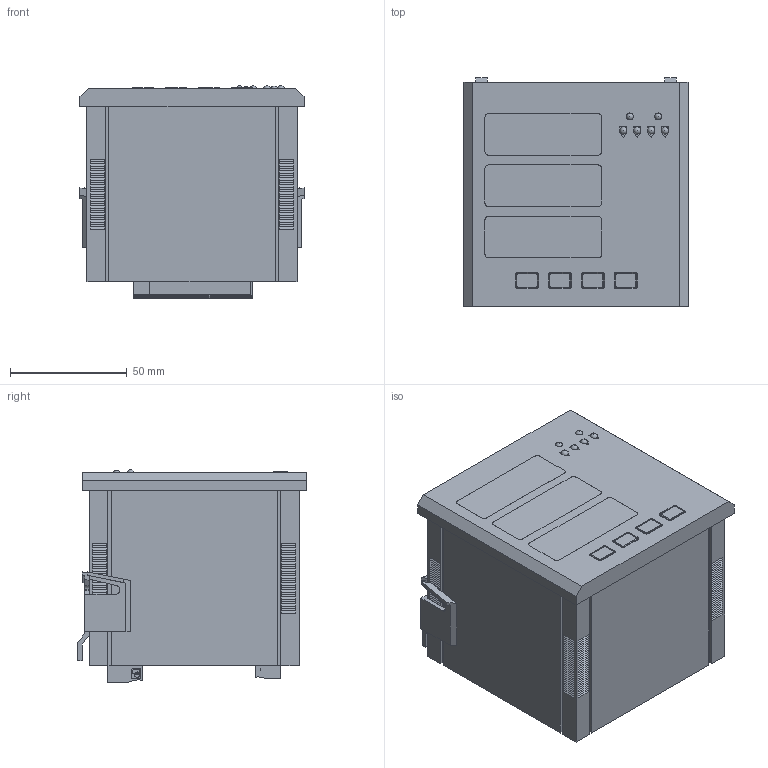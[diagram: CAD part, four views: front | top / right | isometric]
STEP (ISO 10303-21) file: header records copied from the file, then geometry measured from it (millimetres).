
FILE_DESCRIPTION(/* description */ (''),/* implementation_level */ '2;1');
FILE_NAME(/* name */ 'T:\EngMecanica\DESENHOS INVENTOR\Catalogo 2019\Arquivos STEP\iKron - 03.stp',/* time_stamp */ '2024-10-29T14:26:36-03:00',/* author */ ('jose.luis'),/* organization */ (''),/* preprocessor_version */ 'ST-DEVELOPER v18.1',/* originating_system */ 'Autodesk Inventor 2021',/* authorisation */ '');
FILE_SCHEMA (('AUTOMOTIVE_DESIGN { 1 0 10303 214 3 1 1 }'));
Products named in the file (16): Montagem1; Corpo; 1768260; Visor; Botão verde; Botão verde menu; Botão verde seta+traço; Led vermelho; 1897212; Digito 220,0V - iKRON 03; Led vermelho_1; Trava para painel; Trava para painel_MIR; 1912045; Borne 5; Borne 7
Assembly tree (24 placements, depth 2):
  Montagem1
    Corpo
    1768260
    Visor  x3
    Botão verde  x2
    Botão verde menu
    Botão verde seta+traço
    Led vermelho  x5
    1897212
    Digito 220,0V - iKRON 03  x3
    Led vermelho_1
    Trava para painel
    Trava para painel_MIR
    1912045
    Borne 5
    Borne 7
Bounding box: 96 x 98 x 91.04 mm (x, y, z)
Volume: 678237.1 mm3; surface area: 87276.2 mm2
Topology: 90 solids, 90 shells, 5638 faces, 13360 edges, 8254 vertices
Faces by surface type: plane 4616, cylinder 928, cone 64, torus 16, bspline 8, sphere 6
Full cylindrical faces by diameter (mm): 1.994 x3, 3 x8
Entity records: 151725 total; most frequent: CARTESIAN_POINT 27046, DIRECTION 24737, ORIENTED_EDGE 24484, EDGE_CURVE 12242, LINE 9909, VECTOR 9909, VERTEX_POINT 7513, AXIS2_PLACEMENT_3D 7414
